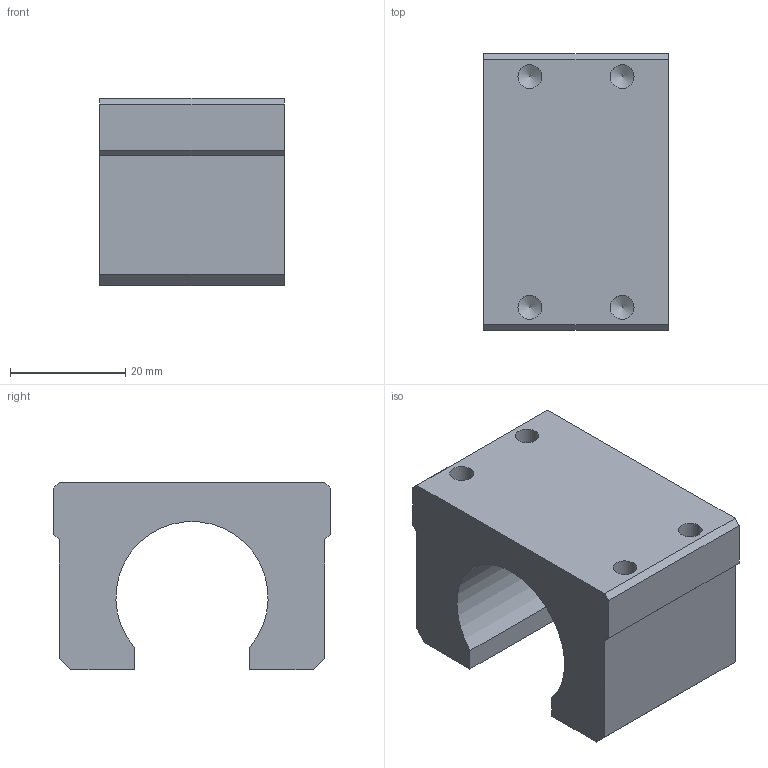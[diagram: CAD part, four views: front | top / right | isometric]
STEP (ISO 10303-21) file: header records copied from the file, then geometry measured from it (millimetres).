
FILE_DESCRIPTION((''),'2;1');
FILE_NAME('D:\製品 (図面)\カタログ用3D\ネジ関連\STEP形式\NH\NH10.stp','2010-06-02T14:38:54',('Tsuchiya'),(''),'Autodesk Inventor 10','Autodesk Inventor 10','');
FILE_SCHEMA(('AUTOMOTIVE_DESIGN { 1 0 10303 214 1 1 1 1 }'));
Length unit declared in the file: millimetre
Products named in the file (1): NH10
Bounding box: 32 x 48 x 32.5 mm (x, y, z)
Volume: 29520.8 mm3; surface area: 9252.7 mm2
Topology: 1 solids, 1 shells, 34 faces, 96 edges, 64 vertices
Faces by surface type: plane 17, bspline 16, cylinder 1
Entity records: 1105 total; most frequent: CARTESIAN_POINT 419, ORIENTED_EDGE 128, DIRECTION 120, EDGE_CURVE 64, EDGE_LOOP 50, VERTEX_POINT 48, VECTOR 46, LINE 46
